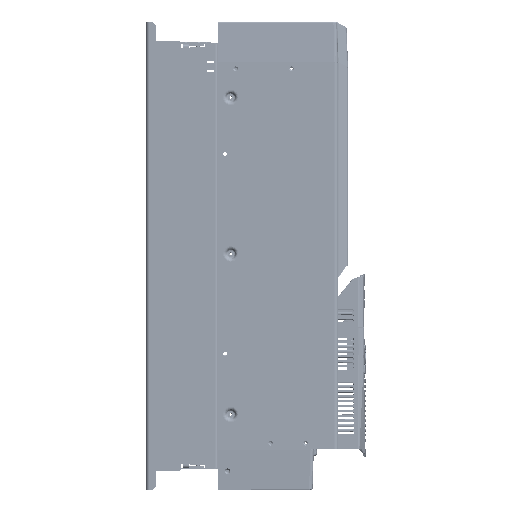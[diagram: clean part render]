
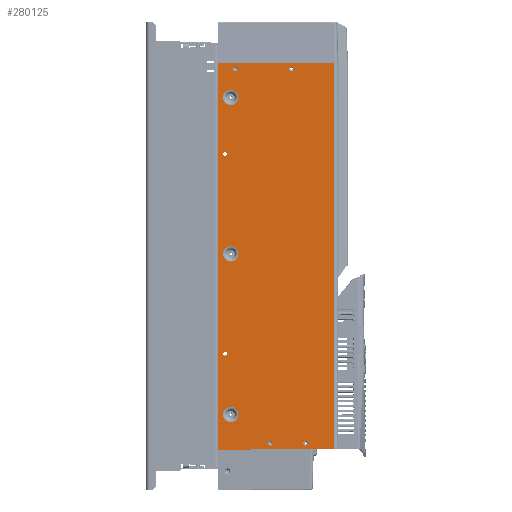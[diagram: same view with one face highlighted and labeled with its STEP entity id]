
A CAD part, left-side view. The second image highlights one B-rep face of the part: STEP entity #280125.
In plain terms, the highlighted planar face has unit normal (-1, 0, 0).
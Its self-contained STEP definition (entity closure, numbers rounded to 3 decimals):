
#20939=LINE('',#424685,#44708);
#20964=LINE('',#424779,#44733);
#20967=LINE('',#424787,#44736);
#20968=LINE('',#424789,#44737);
#20969=LINE('',#424791,#44738);
#20970=LINE('',#424792,#44739);
#44708=VECTOR('',#339172,166.5);
#44733=VECTOR('',#339267,554.413);
#44736=VECTOR('',#339274,47.);
#44737=VECTOR('',#339275,0.413);
#44738=VECTOR('',#339276,119.5);
#44739=VECTOR('',#339277,554.);
#65503=PLANE('',#300756);
#74698=FACE_BOUND('',#99849,.T.);
#74699=FACE_BOUND('',#99850,.T.);
#74700=FACE_BOUND('',#99851,.T.);
#74701=FACE_BOUND('',#99852,.T.);
#74702=FACE_BOUND('',#99853,.T.);
#74703=FACE_BOUND('',#99854,.T.);
#74704=FACE_BOUND('',#99855,.T.);
#74705=FACE_BOUND('',#99856,.T.);
#74706=FACE_BOUND('',#99857,.T.);
#81769=FACE_OUTER_BOUND('',#99848,.T.);
#99848=EDGE_LOOP('',(#208892,#208893,#208894,#208895,#208896,#208897));
#99849=EDGE_LOOP('',(#208898));
#99850=EDGE_LOOP('',(#208899));
#99851=EDGE_LOOP('',(#208900));
#99852=EDGE_LOOP('',(#208901));
#99853=EDGE_LOOP('',(#208902));
#99854=EDGE_LOOP('',(#208903));
#99855=EDGE_LOOP('',(#208904));
#99856=EDGE_LOOP('',(#208905));
#99857=EDGE_LOOP('',(#208906));
#120206=CIRCLE('',#300757,2.7);
#120207=CIRCLE('',#300758,3.332);
#120208=CIRCLE('',#300759,3.382);
#120209=CIRCLE('',#300760,3.382);
#120210=CIRCLE('',#300761,3.382);
#120211=CIRCLE('',#300762,10.901);
#120212=CIRCLE('',#300763,10.901);
#120213=CIRCLE('',#300764,10.901);
#120214=CIRCLE('',#300765,2.7);
#134899=VERTEX_POINT('',#424682);
#134900=VERTEX_POINT('',#424684);
#134934=VERTEX_POINT('',#424777);
#134937=VERTEX_POINT('',#424786);
#134938=VERTEX_POINT('',#424788);
#134939=VERTEX_POINT('',#424790);
#134940=VERTEX_POINT('',#424793);
#134941=VERTEX_POINT('',#424795);
#134942=VERTEX_POINT('',#424797);
#134943=VERTEX_POINT('',#424799);
#134944=VERTEX_POINT('',#424801);
#134945=VERTEX_POINT('',#424803);
#134946=VERTEX_POINT('',#424805);
#134947=VERTEX_POINT('',#424807);
#134948=VERTEX_POINT('',#424809);
#162872=EDGE_CURVE('',#134900,#134899,#20939,.T.);
#162916=EDGE_CURVE('',#134899,#134934,#20964,.T.);
#162920=EDGE_CURVE('',#134934,#134937,#20967,.T.);
#162921=EDGE_CURVE('',#134937,#134938,#20968,.T.);
#162922=EDGE_CURVE('',#134938,#134939,#20969,.T.);
#162923=EDGE_CURVE('',#134939,#134900,#20970,.T.);
#162924=EDGE_CURVE('',#134940,#134940,#120206,.T.);
#162925=EDGE_CURVE('',#134941,#134941,#120207,.T.);
#162926=EDGE_CURVE('',#134942,#134942,#120208,.T.);
#162927=EDGE_CURVE('',#134943,#134943,#120209,.T.);
#162928=EDGE_CURVE('',#134944,#134944,#120210,.T.);
#162929=EDGE_CURVE('',#134945,#134945,#120211,.T.);
#162930=EDGE_CURVE('',#134946,#134946,#120212,.T.);
#162931=EDGE_CURVE('',#134947,#134947,#120213,.T.);
#162932=EDGE_CURVE('',#134948,#134948,#120214,.T.);
#208892=ORIENTED_EDGE('',*,*,#162872,.T.);
#208893=ORIENTED_EDGE('',*,*,#162916,.T.);
#208894=ORIENTED_EDGE('',*,*,#162920,.T.);
#208895=ORIENTED_EDGE('',*,*,#162921,.T.);
#208896=ORIENTED_EDGE('',*,*,#162922,.T.);
#208897=ORIENTED_EDGE('',*,*,#162923,.T.);
#208898=ORIENTED_EDGE('',*,*,#162924,.T.);
#208899=ORIENTED_EDGE('',*,*,#162925,.T.);
#208900=ORIENTED_EDGE('',*,*,#162926,.T.);
#208901=ORIENTED_EDGE('',*,*,#162927,.T.);
#208902=ORIENTED_EDGE('',*,*,#162928,.T.);
#208903=ORIENTED_EDGE('',*,*,#162929,.T.);
#208904=ORIENTED_EDGE('',*,*,#162930,.T.);
#208905=ORIENTED_EDGE('',*,*,#162931,.T.);
#208906=ORIENTED_EDGE('',*,*,#162932,.T.);
#280125=ADVANCED_FACE('',(#81769,#74698,#74699,#74700,#74701,#74702,#74703,
#74704,#74705,#74706),#65503,.T.);
#300756=AXIS2_PLACEMENT_3D('',#424785,#339272,#339273);
#300757=AXIS2_PLACEMENT_3D('',#424794,#339278,#339279);
#300758=AXIS2_PLACEMENT_3D('',#424796,#339280,#339281);
#300759=AXIS2_PLACEMENT_3D('',#424798,#339282,#339283);
#300760=AXIS2_PLACEMENT_3D('',#424800,#339284,#339285);
#300761=AXIS2_PLACEMENT_3D('',#424802,#339286,#339287);
#300762=AXIS2_PLACEMENT_3D('',#424804,#339288,#339289);
#300763=AXIS2_PLACEMENT_3D('',#424806,#339290,#339291);
#300764=AXIS2_PLACEMENT_3D('',#424808,#339292,#339293);
#300765=AXIS2_PLACEMENT_3D('',#424810,#339294,#339295);
#339172=DIRECTION('',(0.,0.,-1.));
#339267=DIRECTION('',(0.,-1.,0.));
#339272=DIRECTION('center_axis',(-1.,0.,0.));
#339273=DIRECTION('ref_axis',(0.,0.,1.));
#339274=DIRECTION('',(0.,0.,1.));
#339275=DIRECTION('',(0.,1.,0.));
#339276=DIRECTION('',(0.,0.,1.));
#339277=DIRECTION('',(0.,1.,0.));
#339278=DIRECTION('center_axis',(1.,0.,0.));
#339279=DIRECTION('ref_axis',(0.,1.,0.));
#339280=DIRECTION('center_axis',(1.,0.,0.));
#339281=DIRECTION('ref_axis',(0.,1.,0.));
#339282=DIRECTION('center_axis',(1.,0.,0.));
#339283=DIRECTION('ref_axis',(0.,1.,0.));
#339284=DIRECTION('center_axis',(1.,0.,0.));
#339285=DIRECTION('ref_axis',(0.,1.,0.));
#339286=DIRECTION('center_axis',(1.,0.,0.));
#339287=DIRECTION('ref_axis',(0.,1.,0.));
#339288=DIRECTION('center_axis',(1.,0.,0.));
#339289=DIRECTION('ref_axis',(0.,0.814,-0.581));
#339290=DIRECTION('center_axis',(1.,0.,0.));
#339291=DIRECTION('ref_axis',(0.,-0.581,-0.814));
#339292=DIRECTION('center_axis',(1.,0.,0.));
#339293=DIRECTION('ref_axis',(0.,0.814,-0.581));
#339294=DIRECTION('center_axis',(1.,0.,0.));
#339295=DIRECTION('ref_axis',(0.,1.,0.));
#424682=CARTESIAN_POINT('',(-257.5,0.,0.));
#424684=CARTESIAN_POINT('',(-257.5,0.,166.5));
#424685=CARTESIAN_POINT('',(-257.5,0.,166.5));
#424777=CARTESIAN_POINT('',(-257.5,-554.413,0.));
#424779=CARTESIAN_POINT('',(-257.5,0.,0.));
#424785=CARTESIAN_POINT('Origin',(-257.5,-554.413,0.));
#424786=CARTESIAN_POINT('',(-257.5,-554.413,47.));
#424787=CARTESIAN_POINT('',(-257.5,-554.413,0.));
#424788=CARTESIAN_POINT('',(-257.5,-554.,47.));
#424789=CARTESIAN_POINT('',(-257.5,-554.413,47.));
#424790=CARTESIAN_POINT('',(-257.5,-554.,166.5));
#424791=CARTESIAN_POINT('',(-257.5,-554.,47.));
#424792=CARTESIAN_POINT('',(-257.5,-554.,166.5));
#424793=CARTESIAN_POINT('',(-257.5,-414.3,10.));
#424794=CARTESIAN_POINT('Origin',(-257.5,-417.,10.));
#424795=CARTESIAN_POINT('',(-257.5,-541.668,75.));
#424796=CARTESIAN_POINT('Origin',(-257.5,-545.,75.));
#424797=CARTESIAN_POINT('',(-257.5,-541.618,125.));
#424798=CARTESIAN_POINT('Origin',(-257.5,-545.,125.));
#424799=CARTESIAN_POINT('',(-257.5,-5.618,25.));
#424800=CARTESIAN_POINT('Origin',(-257.5,-9.,25.));
#424801=CARTESIAN_POINT('',(-257.5,-5.618,105.));
#424802=CARTESIAN_POINT('Origin',(-257.5,-9.,105.));
#424803=CARTESIAN_POINT('',(-257.5,-493.099,18.));
#424804=CARTESIAN_POINT('Origin',(-257.5,-504.,18.));
#424805=CARTESIAN_POINT('',(-257.5,-274.,7.099));
#424806=CARTESIAN_POINT('Origin',(-257.5,-274.,18.));
#424807=CARTESIAN_POINT('',(-257.5,-39.099,18.));
#424808=CARTESIAN_POINT('Origin',(-257.5,-50.,18.));
#424809=CARTESIAN_POINT('',(-257.5,-128.3,10.));
#424810=CARTESIAN_POINT('Origin',(-257.5,-131.,10.));
